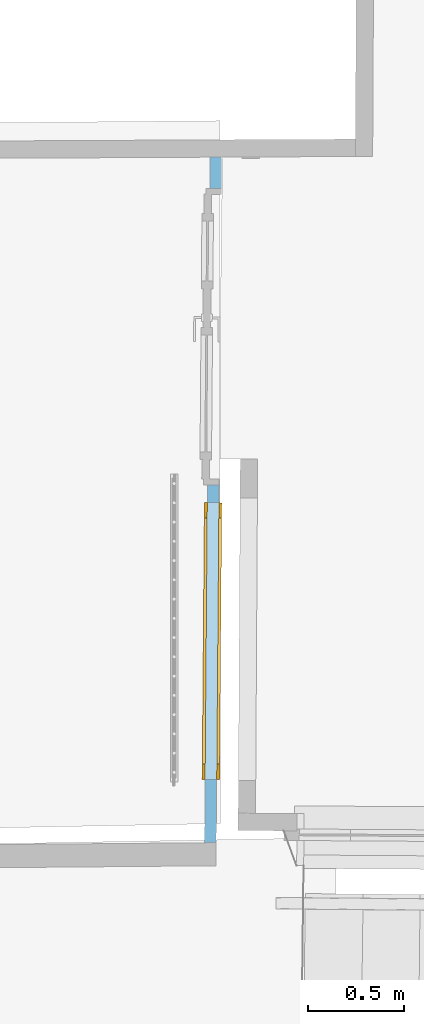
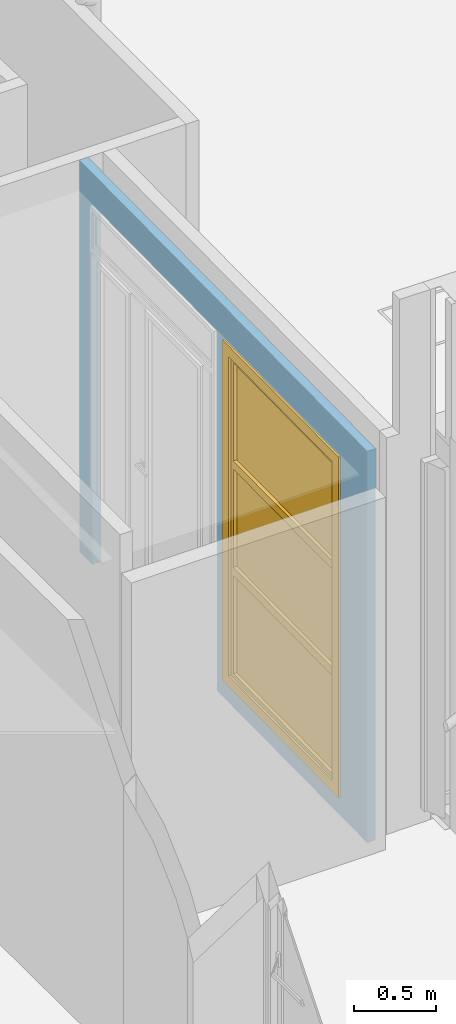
# One storey, part 110 of 133: 1 window, 2 openings, plus 1 element that does not belong to this part.
"""IFC2X3 building model written with IfcOpenShell, lengths in centimetres."""

from ifc_helpers import new_model, entity, si_unit, converted_unit, direction, frame, origin, origin_with_axes, place, context, subcontext, project, spatial, polyline, outline, extrude, clip, bounded_halfspace, faceted_brep, shape, source, transform, mapped, material, material_list, layer, layer_set, layer_usage, type_object, element, fill, save


model = new_model("IFC2X3")

# Units and contexts
model_context = context("Model", 3, precision=0.0001, world=origin(), true_north=direction((0.225632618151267, 0.974212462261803, 0.0)))
body_context = subcontext(model_context, "Body", "Model", "MODEL_VIEW")
footprint_context = subcontext(model_context, "FootPrint", "Model", "MODEL_VIEW")
profile_context = subcontext(model_context, "Profile", "Model", "MODEL_VIEW")
ifc_project = project(units=[si_unit("LENGTHUNIT", "METRE", prefix="CENTI"), si_unit("AREAUNIT", "SQUARE_METRE", prefix="CENTI"), si_unit("VOLUMEUNIT", "CUBIC_METRE", prefix="CENTI"), converted_unit("PLANEANGLEUNIT", "DEGREE", entity("IfcRatioMeasure", 0.0174532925), si_unit("PLANEANGLEUNIT", "RADIAN"), dimensions=[0, 0, 0, 0, 0, 0, 0])], contexts=[model_context])

# Site, building, storey
site_placement = place(None, origin_with_axes())
site = spatial("IfcSite", under=ifc_project, at=site_placement, Name="Default Site", CompositionType="ELEMENT")
building_placement = place(site_placement, origin_with_axes())
building = spatial("IfcBuilding", under=site, at=building_placement, Name="Default Building", CompositionType="ELEMENT")
storey_placement = place(building_placement, frame((0.0, 0.0, -291.400371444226), z_axis=(0.0, 0.0, 1.0), x_axis=(1.0, 0.0, 0.0)))
storey = spatial("IfcBuildingStorey", under=building, at=storey_placement, Name="Rez-de-Jardin", CompositionType="ELEMENT", Elevation=-291.400371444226)

# Wall, openings, window
ifc_material_1 = material(Name="<aucun>")
ifc_layer = layer(ifc_material_1, 6.0)
ifc_layer_set = layer_set([ifc_layer], Name="default")
ifc_layer_usage = layer_usage(ifc_layer_set, "AXIS2", "POSITIVE", -3.0)
wall_type = type_object("IfcWallType", Name="default 60", PredefinedType="NOTDEFINED", material=ifc_layer_set)
wall_placement = place(storey_placement, frame((1072.74238360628, -211.501360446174, -1.94511073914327e-11), z_axis=(0.0, 0.0, 1.0), x_axis=(0.00794666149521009, 0.999968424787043, 0.0)))
wall = element("IfcWallStandardCase", 1, at=wall_placement, inside=storey, type_object=wall_type, material=ifc_layer_usage, Name="Enveloppe 72513", context=body_context, shape_type="Clipping", body=[
    clip(extrude(outline(polyline([(0.0, 3.00000000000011), (0.0, -2.99999999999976), (356.153047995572, -3.000000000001), (356.07539948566, 2.99999999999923), (0.0, 3.00000000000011)])), frame((0.0, 0.0, 8.88178419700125e-14), z_axis=(0.0, 0.0, 1.0), x_axis=(1.0, 0.0, 0.0)), (0.0, 0.0, 1.0), 291.413221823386), bounded_halfspace(frame((0.0, 2.99999999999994, 262.400371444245), z_axis=(0.0, 0.0, 1.0), x_axis=(0.016676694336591, -0.999860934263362, 0.0)), True, frame((0.0, 2.99999999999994, 262.400371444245), z_axis=(0.0, 0.0, 1.0), x_axis=(1.0, 0.0, 0.0)), polyline([(0.0, -5.99999999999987), (0.0, 0.0), (0.100074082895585, -6.00000000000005), (0.0, -5.99999999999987)]))),
])
opening_1_placement = place(wall_placement, frame((32.8703989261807, 0.0, 14.0000000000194), z_axis=(0.0, 0.0, 1.0), x_axis=(1.0, -4.17027523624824e-15, 0.0)))
cartesian_point_1 = entity("IfcCartesianPoint", [-1.11022302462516e-13, 0.0, 253.5])
cartesian_point_2 = entity("IfcCartesianPoint", [143.783224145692, 2.99999999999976])
opening_1 = element("IfcOpeningElement", 2, at=opening_1_placement, cuts=wall, Name="4294966474_11", ObjectType="Opening", shapes=[
    shape(body_context, "Body", "SweptSolid", [extrude(outline(polyline([(-1.33226762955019e-13, 253.5), (-1.33226762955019e-13, 0.0), (143.783224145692, 0.0), (143.783224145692, 253.5), (-1.33226762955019e-13, 253.5)])), frame((0.0, 13.0, 0.0), z_axis=(0.0, -1.0, 0.0), x_axis=(1.0, 0.0, 0.0)), (0.0, 0.0, 1.0), 26.0)]),
    shape(profile_context, "Profile", "GeometricCurveSet", [entity("IfcGeometricCurveSet", [entity("IfcPolyline", [cartesian_point_1, entity("IfcCartesianPoint", [-1.11022302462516e-13, 0.0, 0.0]), entity("IfcCartesianPoint", [143.783224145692, 0.0, 0.0]), entity("IfcCartesianPoint", [143.783224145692, 0.0, 253.5]), cartesian_point_1])])]),
    shape(footprint_context, "FootPrint", "GeometricCurveSet", [entity("IfcGeometricCurveSet", [entity("IfcPolyline", [cartesian_point_2, entity("IfcCartesianPoint", [-1.33226762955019e-13, 2.99999999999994]), entity("IfcCartesianPoint", [-8.88178419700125e-14, -2.99999999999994]), entity("IfcCartesianPoint", [143.783224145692, -2.99999999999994]), cartesian_point_2])])]),
])
opening_2_placement = place(wall_placement, frame((185.932714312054, -6.82121026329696e-13, 1.86077819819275e-11), z_axis=(0.0, 0.0, 1.0), x_axis=(1.0, -4.17027523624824e-15, 0.0)))
cartesian_point_3 = entity("IfcCartesianPoint", [-9.99200722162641e-14, 0.0, 268.0])
cartesian_point_4 = entity("IfcCartesianPoint", [153.89969671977, 2.99999999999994])
element("IfcOpeningElement", 3, at=opening_2_placement, cuts=wall, Name="4294966364_11", ObjectType="Opening", shapes=[
    shape(body_context, "Body", "SweptSolid", [extrude(outline(polyline([(-1.33226762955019e-13, 268.0), (-1.33226762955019e-13, -4.44089209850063e-14), (153.89969671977, -4.44089209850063e-14), (153.89969671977, 268.0), (-1.33226762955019e-13, 268.0)])), frame((0.0, 13.0, 0.0), z_axis=(0.0, -1.0, 0.0), x_axis=(1.0, 0.0, 0.0)), (0.0, 0.0, 1.0), 26.0)]),
    shape(profile_context, "Profile", "GeometricCurveSet", [entity("IfcGeometricCurveSet", [entity("IfcPolyline", [cartesian_point_3, entity("IfcCartesianPoint", [-9.99200722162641e-14, 0.0, -4.44089209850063e-14]), entity("IfcCartesianPoint", [153.89969671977, 0.0, -4.44089209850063e-14]), entity("IfcCartesianPoint", [153.89969671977, 0.0, 268.0]), cartesian_point_3])])]),
    shape(footprint_context, "FootPrint", "GeometricCurveSet", [entity("IfcGeometricCurveSet", [entity("IfcPolyline", [cartesian_point_4, entity("IfcCartesianPoint", [-1.33226762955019e-13, 2.99999999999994]), entity("IfcCartesianPoint", [-8.88178419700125e-14, -2.99999999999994]), entity("IfcCartesianPoint", [153.89969671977, -2.99999999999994]), cartesian_point_4])])]),
])
ifc_material_2 = material(Name="Transparent")
ifc_material_3 = material(Name="Blanc trafic")
ifc_material_list = material_list([ifc_material_2, ifc_material_3])
window_style = type_object("IfcWindowStyle", Name="Fn 1 montant fixe 2 vitres ép 90", ConstructionType="NOTDEFINED", OperationType="TRIPLE_PANEL_HORIZONTAL", ParameterTakesPrecedence=True, Sizeable=False, material=ifc_material_list)
shared_shape = source(origin_with_axes(), body_context, "Body", "Brep", [
    faceted_brep([(-63.891613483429, 245.499992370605, -4.50000017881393), (-63.891613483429, 245.499992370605, 4.50000017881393), (-63.891613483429, 7.99999982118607, 4.50000017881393), (-63.891613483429, 7.99999982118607, -4.50000017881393), (-71.8916118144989, 253.500008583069, 4.50000017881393), (-71.8916118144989, 4.44089209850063e-14, 4.50000017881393), (-71.8916118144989, 253.500008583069, -4.50000017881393), (-71.8916118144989, 4.44089209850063e-14, -4.50000017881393), (63.891613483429, 7.99999982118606, 4.50000017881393), (63.891613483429, 7.99999982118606, -4.50000017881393), (71.8916118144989, 4.44089209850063e-14, 4.50000017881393), (63.891613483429, 7.99999982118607, 4.50000017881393), (71.8916118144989, 4.44089209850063e-14, -4.50000017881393), (63.891613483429, 7.99999982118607, -4.50000017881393), (63.8916134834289, 245.499992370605, 4.50000017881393), (63.8916134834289, 245.499992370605, -4.50000017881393), (71.8916118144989, 253.500008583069, 4.50000017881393), (63.891613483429, 245.499992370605, 4.50000017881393), (71.8916118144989, 253.500008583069, -4.50000017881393), (63.891613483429, 245.499992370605, -4.50000017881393)], [[[0, 1, 2, 3]], [[1, 4, 5, 2]], [[4, 6, 7, 5]], [[6, 0, 3, 7]], [[3, 2, 8, 9]], [[2, 5, 10, 11]], [[5, 7, 12, 10]], [[7, 3, 13, 12]], [[13, 11, 14, 15]], [[11, 10, 16, 17]], [[10, 12, 18, 16]], [[12, 13, 19, 18]], [[19, 17, 1, 0]], [[17, 16, 4, 1]], [[16, 18, 6, 4]], [[18, 19, 0, 6]]]),
    faceted_brep([(-60.8916103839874, 242.499995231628, -2.99999993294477), (-60.8916103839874, 242.499995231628, 2.99999993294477), (-60.8916103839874, 169.333338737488, 2.99999993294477), (-60.8916103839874, 169.333338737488, -2.99999993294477), (-63.891613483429, 245.499992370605, 2.99999993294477), (-63.891613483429, 166.333329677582, 2.99999993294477), (-63.891613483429, 245.499992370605, -2.99999993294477), (-63.891613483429, 166.333329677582, -2.99999993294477), (60.8916103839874, 169.333338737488, 2.99999993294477), (60.8916103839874, 169.333338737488, -2.99999993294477), (63.891613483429, 166.333329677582, 2.99999993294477), (63.891613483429, 166.333329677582, -2.99999993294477), (60.8916103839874, 242.499995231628, 2.99999993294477), (60.8916103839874, 242.499995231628, -2.99999993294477), (63.891613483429, 245.499992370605, 2.99999993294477), (63.891613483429, 245.499992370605, -2.99999993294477)], [[[0, 1, 2, 3]], [[1, 4, 5, 2]], [[4, 6, 7, 5]], [[6, 0, 3, 7]], [[3, 2, 8, 9]], [[2, 5, 10, 8]], [[5, 7, 11, 10]], [[7, 3, 9, 11]], [[9, 8, 12, 13]], [[8, 10, 14, 12]], [[10, 11, 15, 14]], [[11, 9, 13, 15]], [[13, 12, 1, 0]], [[12, 14, 4, 1]], [[14, 15, 6, 4]], [[15, 13, 0, 6]]]),
    faceted_brep([(60.8916103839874, 242.499995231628, -0.499999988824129), (60.8916103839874, 169.333338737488, -0.499999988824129), (-60.8916103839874, 169.333338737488, -0.499999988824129), (-60.8916103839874, 242.499995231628, -0.499999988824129), (-60.8916103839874, 242.499995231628, 0.499999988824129), (-60.8916103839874, 169.333338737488, 0.499999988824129), (60.8916103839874, 169.333338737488, 0.499999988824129), (60.8916103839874, 242.499995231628, 0.499999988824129)], [[[0, 1, 2, 3]], [[4, 5, 6, 7]], [[3, 2, 5, 4]], [[2, 1, 6, 5]], [[1, 0, 7, 6]], [[0, 3, 4, 7]]]),
    faceted_brep([(-60.8916103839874, 163.333332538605, -2.99999993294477), (-60.8916103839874, 163.333332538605, 2.99999993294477), (-60.8916103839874, 90.1666641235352, 2.99999993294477), (-60.8916103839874, 90.1666641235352, -2.99999993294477), (-63.891613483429, 166.333329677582, 2.99999993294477), (-63.891613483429, 87.1666669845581, 2.99999993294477), (-63.891613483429, 166.333329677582, -2.99999993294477), (-63.891613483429, 87.1666669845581, -2.99999993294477), (60.8916103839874, 90.1666641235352, 2.99999993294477), (60.8916103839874, 90.1666641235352, -2.99999993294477), (63.891613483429, 87.1666669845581, 2.99999993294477), (63.891613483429, 87.1666669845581, -2.99999993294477), (60.8916103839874, 163.333332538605, 2.99999993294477), (60.8916103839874, 163.333332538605, -2.99999993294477), (63.891613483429, 166.333329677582, 2.99999993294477), (63.891613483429, 166.333329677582, -2.99999993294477)], [[[0, 1, 2, 3]], [[1, 4, 5, 2]], [[4, 6, 7, 5]], [[6, 0, 3, 7]], [[3, 2, 8, 9]], [[2, 5, 10, 8]], [[5, 7, 11, 10]], [[7, 3, 9, 11]], [[9, 8, 12, 13]], [[8, 10, 14, 12]], [[10, 11, 15, 14]], [[11, 9, 13, 15]], [[13, 12, 1, 0]], [[12, 14, 4, 1]], [[14, 15, 6, 4]], [[15, 13, 0, 6]]]),
    faceted_brep([(60.8916103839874, 163.333332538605, -0.499999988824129), (60.8916103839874, 90.1666641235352, -0.499999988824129), (-60.8916103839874, 90.1666641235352, -0.499999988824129), (-60.8916103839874, 163.333332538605, -0.499999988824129), (-60.8916103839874, 163.333332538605, 0.499999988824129), (-60.8916103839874, 90.1666641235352, 0.499999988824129), (60.8916103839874, 90.1666641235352, 0.499999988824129), (60.8916103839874, 163.333332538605, 0.499999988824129)], [[[0, 1, 2, 3]], [[4, 5, 6, 7]], [[3, 2, 5, 4]], [[2, 1, 6, 5]], [[1, 0, 7, 6]], [[0, 3, 4, 7]]]),
    faceted_brep([(-60.8916103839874, 84.1666638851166, -2.99999993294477), (-60.8916103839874, 84.1666638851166, 2.99999993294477), (-60.8916103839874, 10.9999999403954, 2.99999993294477), (-60.8916103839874, 10.9999999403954, -2.99999993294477), (-63.891613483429, 87.1666669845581, 2.99999993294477), (-63.891613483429, 7.99999982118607, 2.99999993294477), (-63.891613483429, 87.1666669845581, -2.99999993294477), (-63.891613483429, 7.99999982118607, -2.99999993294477), (60.8916103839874, 10.9999999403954, 2.99999993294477), (60.8916103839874, 10.9999999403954, -2.99999993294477), (63.891613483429, 7.99999982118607, 2.99999993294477), (63.891613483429, 7.99999982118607, -2.99999993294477), (60.8916103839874, 84.1666638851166, 2.99999993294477), (60.8916103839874, 84.1666638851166, -2.99999993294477), (63.891613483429, 87.1666669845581, 2.99999993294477), (63.891613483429, 87.1666669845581, -2.99999993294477)], [[[0, 1, 2, 3]], [[1, 4, 5, 2]], [[4, 6, 7, 5]], [[6, 0, 3, 7]], [[3, 2, 8, 9]], [[2, 5, 10, 8]], [[5, 7, 11, 10]], [[7, 3, 9, 11]], [[9, 8, 12, 13]], [[8, 10, 14, 12]], [[10, 11, 15, 14]], [[11, 9, 13, 15]], [[13, 12, 1, 0]], [[12, 14, 4, 1]], [[14, 15, 6, 4]], [[15, 13, 0, 6]]]),
    faceted_brep([(60.8916103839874, 84.1666638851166, -0.499999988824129), (60.8916103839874, 10.9999999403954, -0.499999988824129), (-60.8916103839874, 10.9999999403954, -0.499999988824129), (-60.8916103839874, 84.1666638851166, -0.499999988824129), (-60.8916103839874, 84.1666638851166, 0.499999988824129), (-60.8916103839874, 10.9999999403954, 0.499999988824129), (60.8916103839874, 10.9999999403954, 0.499999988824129), (60.8916103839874, 84.1666638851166, 0.499999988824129)], [[[0, 1, 2, 3]], [[4, 5, 6, 7]], [[3, 2, 5, 4]], [[2, 1, 6, 5]], [[1, 0, 7, 6]], [[0, 3, 4, 7]]]),
])
window_placement = place(opening_1_placement, frame((0.0, -4.49999999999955, 0.0), z_axis=(0.0, 0.0, 1.0), x_axis=(1.0, 0.0, 0.0)))
window = element("IfcWindow", 4, at=window_placement, inside=storey, type_object=window_style, material=ifc_material_list, Name="Fenêtre 73505", OverallHeight=253.5, OverallWidth=143.783224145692, context=body_context, shape_type="MappedRepresentation", body=[
    mapped(shared_shape, transform((71.8916120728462, 4.50000000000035, 4.44089209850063e-14), x_axis=(-1.0, 0.0, 0.0), y_axis=(0.0, 0.0, 1.0), z_axis=(0.0, 1.0, 0.0), scale=1.0, scale2=1.0, scale3=1.0, uniform=False)),
])
fill(opening_1, window)

save(model, "model.ifc")
